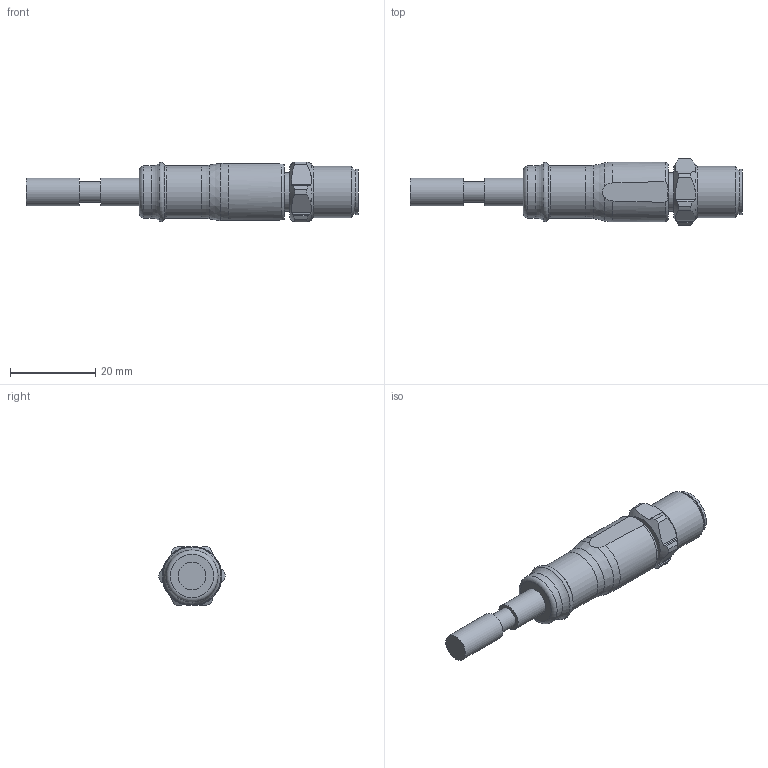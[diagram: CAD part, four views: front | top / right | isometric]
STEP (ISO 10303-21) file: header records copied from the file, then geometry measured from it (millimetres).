
FILE_DESCRIPTION( ( 'STEP AP203' ), '1' );
FILE_NAME( 'p:/temp/worker_704/temp/exporttempdir_3944_126_Y3SmP/format_0/EVF518.stp', '2020-12-02T08:42:44', ( 'License CC BY-ND 4.0' ), ( 'CADENAS' ), ' ', 'PARTsolutions', ' ' );
FILE_SCHEMA( ( 'CONFIG_CONTROL_DESIGN' ) );
Length unit declared in the file: millimetre
Products named in the file (1): _EVF518
Bounding box: 77.85 x 15.5 x 14 mm (x, y, z)
Volume: 6927.2 mm3; surface area: 3322.5 mm2
Topology: 1 solids, 1 shells, 79 faces, 194 edges, 126 vertices
Faces by surface type: plane 41, cylinder 24, torus 7, cone 5, bspline 2
Full cylindrical faces by diameter (mm): 4.8 x1, 6.5 x2, 8.28 x1, 8.94 x1, 10.1 x1, 10.6 x1, 12 x1, 12.2 x2
Entity records: 2462 total; most frequent: CARTESIAN_POINT 733, ORIENTED_EDGE 334, DIRECTION 324, EDGE_CURVE 167, AXIS2_PLACEMENT_3D 135, VERTEX_POINT 122, EDGE_LOOP 110, FACE_OUTER_BOUND 96
